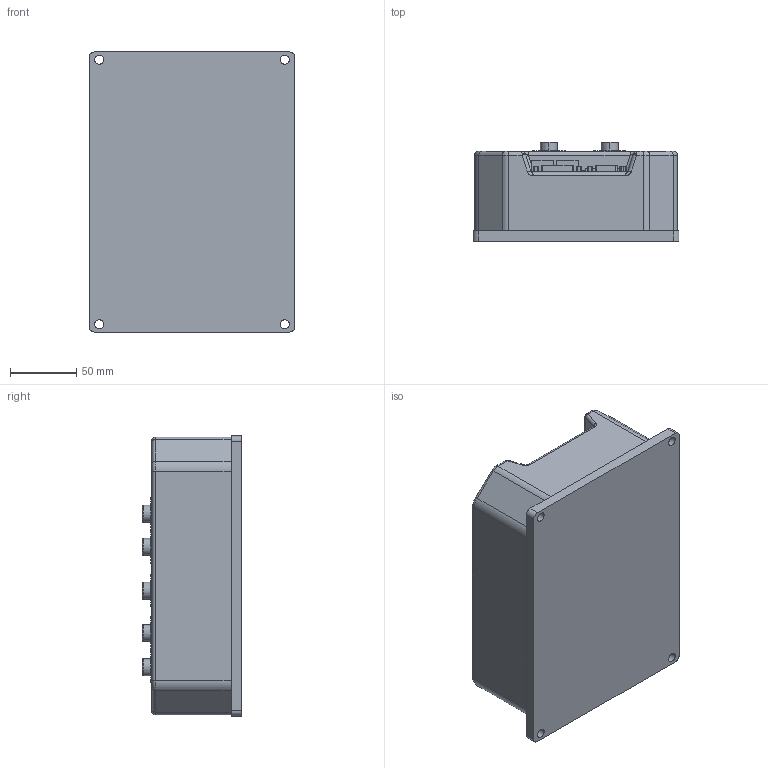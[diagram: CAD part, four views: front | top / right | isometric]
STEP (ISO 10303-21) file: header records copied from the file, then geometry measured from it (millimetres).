
FILE_DESCRIPTION((''),'2;1');
FILE_NAME('150A_ASM','2021-10-13T',('JACK'),(''),'PRO/ENGINEER BY PARAMETRIC TECHNOLOGY CORPORATION, 2015240','PRO/ENGINEER BY PARAMETRIC TECHNOLOGY CORPORATION, 2015240','');
FILE_SCHEMA(('CONFIG_CONTROL_DESIGN'));
Length unit declared in the file: millimetre
Products named in the file (7): DIZUO; 150AKONGZHI; DB26WAN; DB15WAN; ASM0002_ASM; SULIAOKE; 150A_ASM
Assembly tree (6 placements, depth 3):
  150A_ASM
    DIZUO
    ASM0002_ASM
      150AKONGZHI
      DB26WAN
      DB15WAN
    SULIAOKE
Bounding box: 155.4 x 75 x 211.6 mm (x, y, z)
Volume: 1537658.3 mm3; surface area: 314396.4 mm2
Topology: 5 solids, 5 shells, 988 faces, 2283 edges, 1385 vertices
Faces by surface type: cylinder 462, plane 304, torus 129, bspline 48, sphere 45
Entity records: 30523 total; most frequent: CARTESIAN_POINT 7403, DIRECTION 5179, ORIENTED_EDGE 4566, EDGE_CURVE 2283, AXIS2_PLACEMENT_3D 2047, VERTEX_POINT 1385, EDGE_LOOP 1110, CIRCLE 1091
